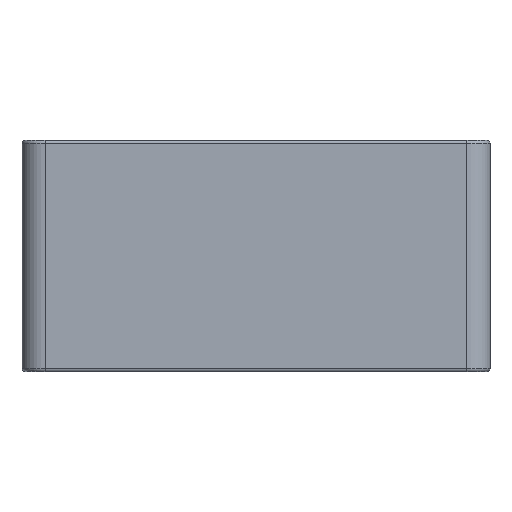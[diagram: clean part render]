
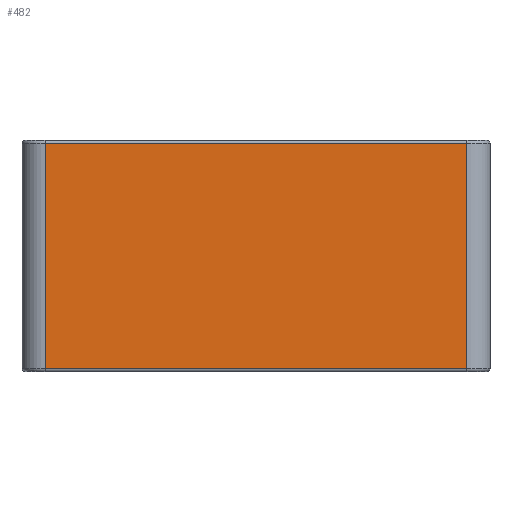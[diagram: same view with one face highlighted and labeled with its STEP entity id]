
A CAD part, front view. The second image highlights one B-rep face of the part: STEP entity #482.
In plain terms, the highlighted planar face has unit normal (0, -1, 0).
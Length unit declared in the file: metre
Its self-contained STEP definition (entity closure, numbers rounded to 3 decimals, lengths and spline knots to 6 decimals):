
#30=PLANE('',#536);
#97=ORIENTED_EDGE('',*,*,#211,.F.);
#98=ORIENTED_EDGE('',*,*,#217,.T.);
#99=ORIENTED_EDGE('',*,*,#209,.T.);
#100=ORIENTED_EDGE('',*,*,#218,.F.);
#209=EDGE_CURVE('',#270,#269,#312,.T.);
#211=EDGE_CURVE('',#271,#272,#313,.T.);
#217=EDGE_CURVE('',#271,#270,#317,.F.);
#218=EDGE_CURVE('',#272,#269,#318,.F.);
#269=VERTEX_POINT('',#800);
#270=VERTEX_POINT('',#802);
#271=VERTEX_POINT('',#806);
#272=VERTEX_POINT('',#807);
#312=LINE('',#801,#330);
#313=LINE('',#805,#331);
#317=LINE('',#817,#335);
#318=LINE('',#818,#336);
#330=VECTOR('',#623,1.);
#331=VECTOR('',#628,1.);
#335=VECTOR('',#640,1.);
#336=VECTOR('',#641,1.);
#348=EDGE_LOOP('',(#97,#98,#99,#100));
#408=FACE_BOUND('',#348,.T.);
#482=ADVANCED_FACE('',(#408),#30,.F.);
#536=AXIS2_PLACEMENT_3D('',#816,#638,#639);
#623=DIRECTION('',(0.,0.,1.));
#628=DIRECTION('',(0.,0.,1.));
#638=DIRECTION('',(0.,1.,0.));
#639=DIRECTION('',(-1.,0.,0.));
#640=DIRECTION('',(-1.,0.,0.));
#641=DIRECTION('',(-1.,0.,0.));
#800=CARTESIAN_POINT('',(0.0365,-0.0405,-0.1355));
#801=CARTESIAN_POINT('',(0.0365,-0.0405,-0.175));
#802=CARTESIAN_POINT('',(0.0365,-0.0405,-0.1745));
#805=CARTESIAN_POINT('',(-0.0365,-0.0405,-0.175));
#806=CARTESIAN_POINT('',(-0.0365,-0.0405,-0.1745));
#807=CARTESIAN_POINT('',(-0.0365,-0.0405,-0.1355));
#816=CARTESIAN_POINT('',(0.,-0.0405,-0.175));
#817=CARTESIAN_POINT('',(0.,-0.0405,-0.1745));
#818=CARTESIAN_POINT('',(0.,-0.0405,-0.1355));
